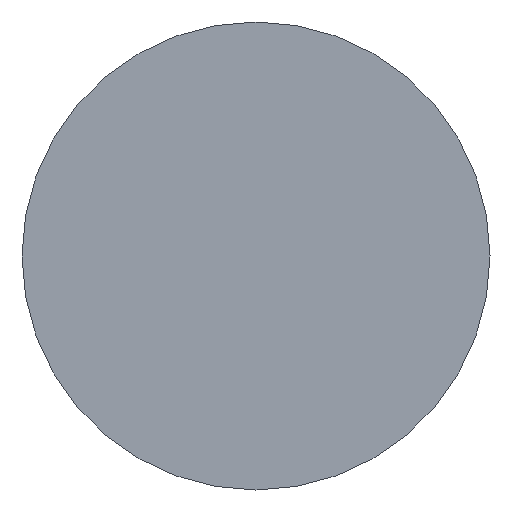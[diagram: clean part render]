
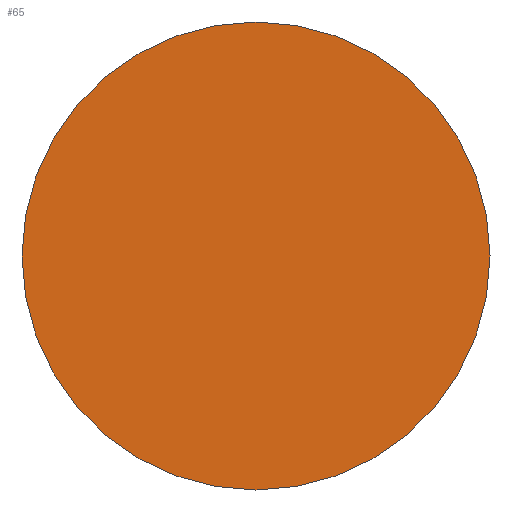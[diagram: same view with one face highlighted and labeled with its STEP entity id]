
A CAD part, left-side view. The second image highlights one B-rep face of the part: STEP entity #65.
In plain terms, the highlighted planar face has unit normal (-1, 0, 0).
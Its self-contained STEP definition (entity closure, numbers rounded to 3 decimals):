
#17=PLANE('',#97);
#22=FACE_OUTER_BOUND('',#28,.T.);
#28=EDGE_LOOP('',(#58));
#37=CIRCLE('',#96,57.15);
#41=VERTEX_POINT('',#132);
#46=EDGE_CURVE('',#41,#41,#37,.T.);
#58=ORIENTED_EDGE('',*,*,#46,.T.);
#65=ADVANCED_FACE('',(#22),#17,.T.);
#96=AXIS2_PLACEMENT_3D('',#133,#114,#115);
#97=AXIS2_PLACEMENT_3D('',#135,#117,#118);
#114=DIRECTION('center_axis',(-1.,0.,0.));
#115=DIRECTION('ref_axis',(0.,0.,1.));
#117=DIRECTION('center_axis',(-1.,0.,0.));
#118=DIRECTION('ref_axis',(0.,0.,1.));
#132=CARTESIAN_POINT('',(0.,-57.15,0.));
#133=CARTESIAN_POINT('Origin',(0.,0.,
0.));
#135=CARTESIAN_POINT('Origin',(0.,0.,0.));
